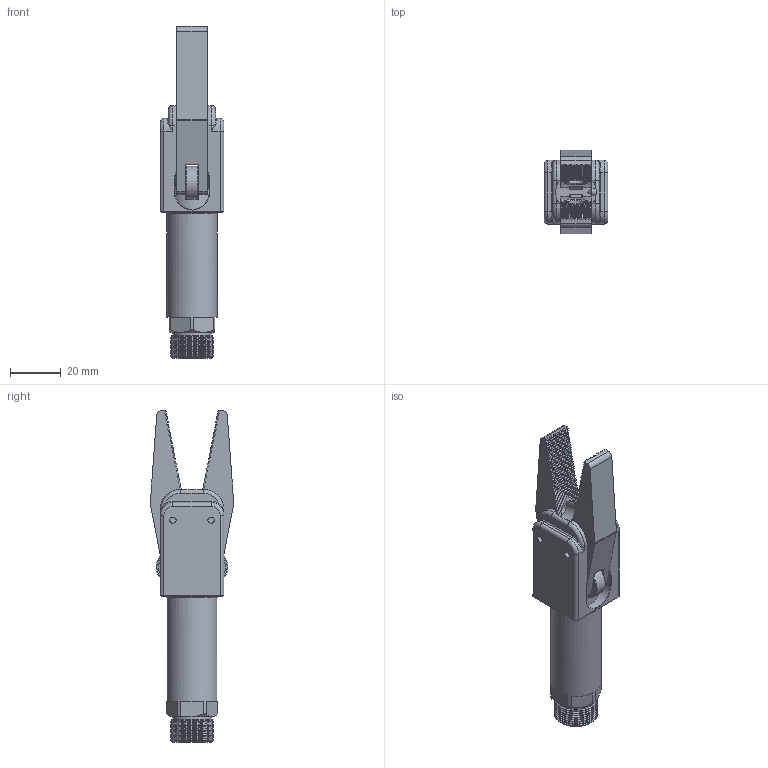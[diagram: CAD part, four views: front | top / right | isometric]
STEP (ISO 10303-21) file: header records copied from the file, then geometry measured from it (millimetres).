
FILE_DESCRIPTION(/* description */ (''),/* implementation_level */ '2;1');
FILE_NAME(/* name */ '_model1.stp',/* time_stamp */ '2023-03-09T10:46:03+08:00',/* author */ (''),/* organization */ (''),/* preprocessor_version */ 'ST-DEVELOPER v16',/* originating_system */ 'SIEMENS PLM Software NX 10.0',/* authorisation */ '');
FILE_SCHEMA (('AUTOMOTIVE_DESIGN { 1 0 10303 214 3 1 1 1 }'));
Length unit declared in the file: millimetre
Products named in the file (1): Admi115498B06jou
Bounding box: 25 x 32.75 x 130.22 mm (x, y, z)
Volume: 43132.6 mm3; surface area: 16592.9 mm2
Topology: 2 solids, 8 shells, 1763 faces, 3844 edges, 2091 vertices
Faces by surface type: plane 1573, cylinder 100, cone 58, torus 24, bspline 8
Full cylindrical faces by diameter (mm): 1 x1, 2 x1, 2.5 x2, 3 x2, 3.4 x1, 4 x8, 6 x1, 8 x2, 8.8 x1, 15 x1, 16 x1, 17 x8, 20 x1
Entity records: 47040 total; most frequent: CARTESIAN_POINT 8777, ORIENTED_EDGE 7512, DIRECTION 7444, EDGE_CURVE 3756, LINE 3370, VECTOR 3370, VERTEX_POINT 2073, AXIS2_PLACEMENT_3D 2037
